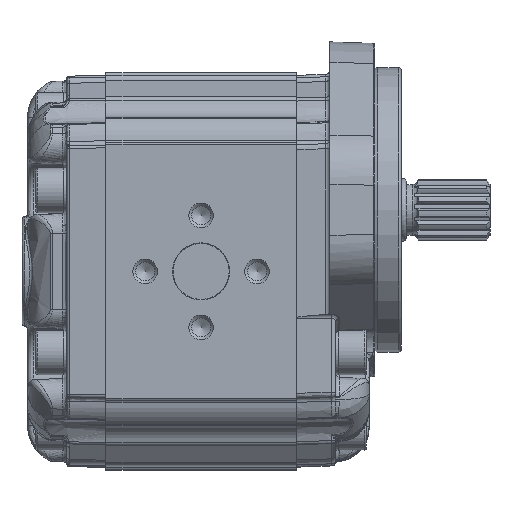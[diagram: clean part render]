
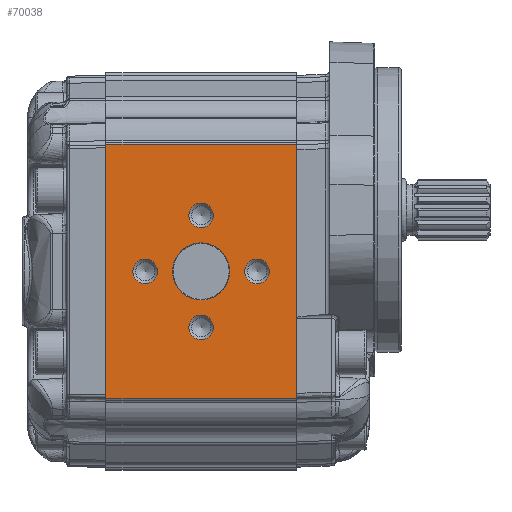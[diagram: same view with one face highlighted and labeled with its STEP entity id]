
A CAD part, left-side view. The second image highlights one B-rep face of the part: STEP entity #70038.
In plain terms, the highlighted planar face has unit normal (-1, 0, 0).
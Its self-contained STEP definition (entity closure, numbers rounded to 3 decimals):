
#8116=LINE('',#122494,#10130);
#8127=LINE('',#122579,#10141);
#8165=LINE('',#122687,#10179);
#8166=LINE('',#122688,#10180);
#10130=VECTOR('',#77578,1000.);
#10141=VECTOR('',#77653,1000.);
#10179=VECTOR('',#77779,1000.);
#10180=VECTOR('',#77780,1000.);
#16502=ORIENTED_EDGE('',*,*,#29295,.T.);
#16503=ORIENTED_EDGE('',*,*,#29296,.T.);
#16504=ORIENTED_EDGE('',*,*,#29297,.T.);
#16505=ORIENTED_EDGE('',*,*,#29298,.T.);
#16506=ORIENTED_EDGE('',*,*,#29299,.T.);
#16507=ORIENTED_EDGE('',*,*,#29199,.F.);
#16508=ORIENTED_EDGE('',*,*,#29300,.T.);
#16509=ORIENTED_EDGE('',*,*,#29241,.F.);
#16510=ORIENTED_EDGE('',*,*,#29301,.T.);
#29199=EDGE_CURVE('',#35924,#35925,#8116,.T.);
#29241=EDGE_CURVE('',#35966,#35967,#8127,.T.);
#29295=EDGE_CURVE('',#35988,#35988,#39783,.F.);
#29296=EDGE_CURVE('',#35989,#35989,#39784,.F.);
#29297=EDGE_CURVE('',#35990,#35990,#39785,.F.);
#29298=EDGE_CURVE('',#35991,#35991,#39786,.F.);
#29299=EDGE_CURVE('',#35992,#35992,#39787,.F.);
#29300=EDGE_CURVE('',#35924,#35967,#8165,.F.);
#29301=EDGE_CURVE('',#35966,#35925,#8166,.F.);
#35924=VERTEX_POINT('',#122493);
#35925=VERTEX_POINT('',#122495);
#35966=VERTEX_POINT('',#122578);
#35967=VERTEX_POINT('',#122580);
#35988=VERTEX_POINT('',#122678);
#35989=VERTEX_POINT('',#122680);
#35990=VERTEX_POINT('',#122682);
#35991=VERTEX_POINT('',#122684);
#35992=VERTEX_POINT('',#122686);
#39783=CIRCLE('',#73301,4.4);
#39784=CIRCLE('',#73302,4.4);
#39785=CIRCLE('',#73303,4.4);
#39786=CIRCLE('',#73304,4.4);
#39787=CIRCLE('',#73305,10.2);
#41124=EDGE_LOOP('',(#16502));
#41125=EDGE_LOOP('',(#16503));
#41126=EDGE_LOOP('',(#16504));
#41127=EDGE_LOOP('',(#16505));
#41128=EDGE_LOOP('',(#16506));
#41129=EDGE_LOOP('',(#16507,#16508,#16509,#16510));
#44483=FACE_BOUND('',#41124,.T.);
#44484=FACE_BOUND('',#41125,.T.);
#44485=FACE_BOUND('',#41126,.T.);
#44486=FACE_BOUND('',#41127,.T.);
#44487=FACE_BOUND('',#41128,.T.);
#44488=FACE_BOUND('',#41129,.T.);
#46924=PLANE('',#73300);
#70038=ADVANCED_FACE('',(#44483,#44484,#44485,#44486,#44487,#44488),#46924,
 .T.);
#73300=AXIS2_PLACEMENT_3D('',#122676,#77767,#77768);
#73301=AXIS2_PLACEMENT_3D('',#122677,#77769,#77770);
#73302=AXIS2_PLACEMENT_3D('',#122679,#77771,#77772);
#73303=AXIS2_PLACEMENT_3D('',#122681,#77773,#77774);
#73304=AXIS2_PLACEMENT_3D('',#122683,#77775,#77776);
#73305=AXIS2_PLACEMENT_3D('',#122685,#77777,#77778);
#77578=DIRECTION('',(0.,0.,1.));
#77653=DIRECTION('',(0.,0.,-1.));
#77767=DIRECTION('',(-1.,0.,0.));
#77768=DIRECTION('',(0.,0.,-1.));
#77769=DIRECTION('',(-1.,0.,0.));
#77770=DIRECTION('',(0.,0.,-1.));
#77771=DIRECTION('',(-1.,0.,0.));
#77772=DIRECTION('',(0.,0.,-1.));
#77773=DIRECTION('',(-1.,0.,0.));
#77774=DIRECTION('',(0.,0.,-1.));
#77775=DIRECTION('',(-1.,0.,0.));
#77776=DIRECTION('',(0.,0.,-1.));
#77777=DIRECTION('',(-1.,0.,0.));
#77778=DIRECTION('',(0.,0.,-1.));
#77779=DIRECTION('',(0.,1.,0.));
#77780=DIRECTION('',(0.,-1.,0.));
#122493=CARTESIAN_POINT('',(-57.5,68.,-45.5));
#122494=CARTESIAN_POINT('',(-57.5,68.,-84.819));
#122495=CARTESIAN_POINT('',(-57.5,68.,45.5));
#122578=CARTESIAN_POINT('',(-57.5,0.,45.5));
#122579=CARTESIAN_POINT('',(-57.5,0.,-44.978));
#122580=CARTESIAN_POINT('',(-57.5,0.,-45.5));
#122676=CARTESIAN_POINT('',(-57.5,-154.175,-84.819));
#122677=CARTESIAN_POINT('',(-57.5,34.,20.));
#122678=CARTESIAN_POINT('',(-57.5,34.,15.6));
#122679=CARTESIAN_POINT('',(-57.5,54.,0.));
#122680=CARTESIAN_POINT('',(-57.5,54.,-4.4));
#122681=CARTESIAN_POINT('',(-57.5,34.,-20.));
#122682=CARTESIAN_POINT('',(-57.5,34.,-24.4));
#122683=CARTESIAN_POINT('',(-57.5,14.,0.));
#122684=CARTESIAN_POINT('',(-57.5,14.,-4.4));
#122685=CARTESIAN_POINT('',(-57.5,34.,0.));
#122686=CARTESIAN_POINT('',(-57.5,34.,-10.2));
#122687=CARTESIAN_POINT('',(-57.5,-154.175,-45.5));
#122688=CARTESIAN_POINT('',(-57.5,-154.175,45.5));
